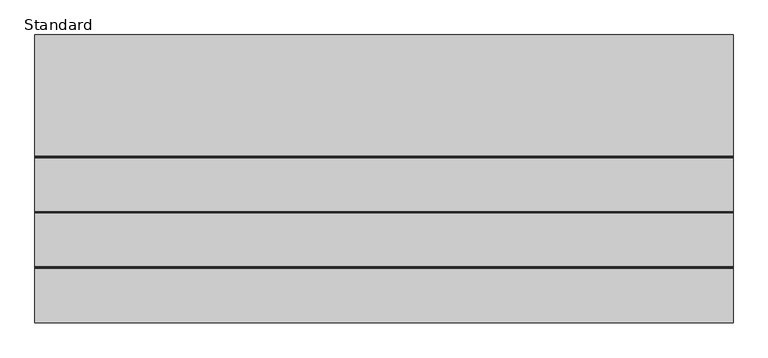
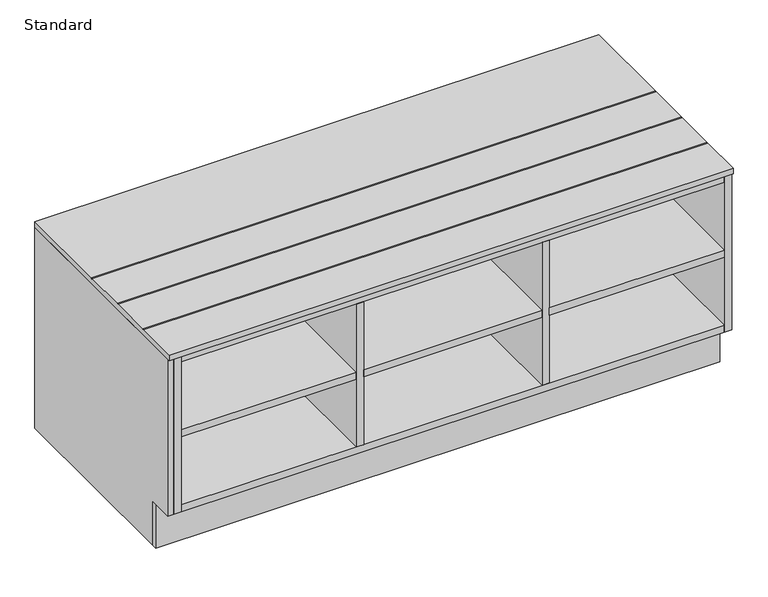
"""IFC4 building model written with IfcOpenShell, lengths in millimetres: furniture geometry, X_Locker-Duracube-Shoe Box : Standard."""

from ifc_helpers import new_model, si_unit, frame, origin, origin_with_axes, place, context, project, spatial, polyline, outline, extrude, source, transform, mapped, element, save


def standard_42a54a5f(model_context):
    return source(origin(), model_context, "Body", "SweptSolid", [
        extrude(outline(polyline([(-292.5, 457.0), (-792.5, 457.0), (-792.5, 470.0), (-698.5, 470.0), (-696.5, 468.0), (-694.5, 470.0), (-602.5, 470.0), (-600.5, 468.0), (-598.5, 470.0), (-506.5, 470.0), (-504.5, 468.0), (-502.5, 470.0), (-292.5, 470.0), (-292.5, 457.0)])), frame((-561.7996736, 0.0, 0.0), z_axis=(1.0, 0.0, 0.0), x_axis=(0.0, 1.0, 0.0)), (0.0, 0.0, 1.0), 1213.0),
        extrude(outline(polyline([(635.2003264, -308.5), (635.2003264, -787.5), (259.2003264, -787.5), (259.2003264, -308.5), (635.2003264, -308.5)])), frame((0.0, 0.0, 270.5), z_axis=(0.0, 0.0, 1.0), x_axis=(1.0, 0.0, 0.0)), (0.0, 0.0, 1.0), 16.0),
        extrude(outline(polyline([(243.2003264, -308.5), (243.2003264, -787.5), (-140.7996736, -787.5), (-140.7996736, -308.5), (243.2003264, -308.5)])), frame((0.0, 0.0, 270.5), z_axis=(0.0, 0.0, 1.0), x_axis=(1.0, 0.0, 0.0)), (0.0, 0.0, 1.0), 16.0),
        extrude(outline(polyline([(259.2003264, -308.5), (259.2003264, -787.5), (243.2003264, -787.5), (243.2003264, -308.5), (259.2003264, -308.5)])), frame((0.0, 0.0, 116.0), z_axis=(0.0, 0.0, 1.0), x_axis=(1.0, 0.0, 0.0)), (0.0, 0.0, 1.0), 325.0),
        extrude(outline(polyline([(-140.7996736, -308.5), (-140.7996736, -787.5), (-156.7996736, -787.5), (-156.7996736, -308.5), (-140.7996736, -308.5)])), frame((0.0, 0.0, 116.0), z_axis=(0.0, 0.0, 1.0), x_axis=(1.0, 0.0, 0.0)), (0.0, 0.0, 1.0), 325.0),
        extrude(outline(polyline([(651.2003264, -308.5), (651.2003264, -787.5), (635.2003264, -787.5), (635.2003264, -308.5), (651.2003264, -308.5)])), frame((0.0, 0.0, 100.0), z_axis=(0.0, 0.0, 1.0), x_axis=(1.0, 0.0, 0.0)), (0.0, 0.0, 1.0), 357.0),
        extrude(outline(polyline([(-532.7996736, -308.5), (-532.7996736, -787.5), (-548.7996736, -787.5), (-548.7996736, -308.5), (-532.7996736, -308.5)])), frame((0.0, 0.0, 100.0), z_axis=(0.0, 0.0, 1.0), x_axis=(1.0, 0.0, 0.0)), (0.0, 0.0, 1.0), 357.0),
        extrude(outline(polyline([(-156.7996736, -308.5), (-156.7996736, -787.5), (-532.7996736, -787.5), (-532.7996736, -308.5), (-156.7996736, -308.5)])), frame((0.0, 0.0, 270.5), z_axis=(0.0, 0.0, 1.0), x_axis=(1.0, 0.0, 0.0)), (0.0, 0.0, 1.0), 16.0),
        extrude(outline(polyline([(635.2003264, -308.5), (635.2003264, -787.5), (-532.7996736, -787.5), (-532.7996736, -308.5), (635.2003264, -308.5)])), frame((0.0, 0.0, 441.0), z_axis=(0.0, 0.0, 1.0), x_axis=(1.0, 0.0, 0.0)), (0.0, 0.0, 1.0), 16.0),
        extrude(outline(polyline([(635.2003264, -308.5), (635.2003264, -787.5), (-532.7996736, -787.5), (-532.7996736, -308.5), (635.2003264, -308.5)])), frame((0.0, 0.0, 100.0), z_axis=(0.0, 0.0, 1.0), x_axis=(1.0, 0.0, 0.0)), (0.0, 0.0, 1.0), 16.0),
        extrude(outline(polyline([(-787.5, 457.0), (-292.5, 457.0), (-292.5, 0.0), (-729.5, 0.0), (-729.5, 100.0), (-787.5, 100.0), (-787.5, 457.0)])), frame((-561.7996736, 0.0, 0.0), z_axis=(1.0, 0.0, 0.0), x_axis=(0.0, 1.0, 0.0)), (0.0, 0.0, 1.0), 13.0),
        extrude(outline(polyline([(651.2003264, -292.5), (651.2003264, -308.5), (-548.7996736, -308.5), (-548.7996736, -292.5), (651.2003264, -292.5)])), origin_with_axes(), (0.0, 0.0, 1.0), 457.0),
        extrude(outline(polyline([(651.2003264, -713.5), (651.2003264, -729.5), (-548.7996736, -729.5), (-548.7996736, -713.5), (651.2003264, -713.5)])), origin_with_axes(), (0.0, 0.0, 1.0), 100.0),
        extrude(outline(polyline([(651.2003264, -729.5), (651.2003264, -742.5), (-561.7996736, -742.5), (-561.7996736, -729.5), (651.2003264, -729.5)])), origin_with_axes(), (0.0, 0.0, 1.0), 100.0),
    ])


if __name__ == "__main__":
    model = new_model("IFC4")
    model_context = context("Model", 3, world=origin())
    ifc_project = project(units=[si_unit("LENGTHUNIT", "METRE", prefix="MILLI")], contexts=[model_context])
    site = spatial("IfcSite", under=ifc_project)
    building = spatial("IfcBuilding", under=site)
    placement = place(None, origin())
    standard_shape = standard_42a54a5f(model_context)
    element("IfcFurniture", 1, ObjectType="X_Locker-Duracube-Shoe Box : Standard", at=placement, inside=building, context=model_context, shape_type="MappedRepresentation", body=[
        mapped(standard_shape, transform((0.0, 0.0, 0.0), x_axis=(1.0, 0.0, 0.0), y_axis=(0.0, 1.0, 0.0), z_axis=(0.0, 0.0, 1.0))),
    ])
    save(model, "model.ifc")
